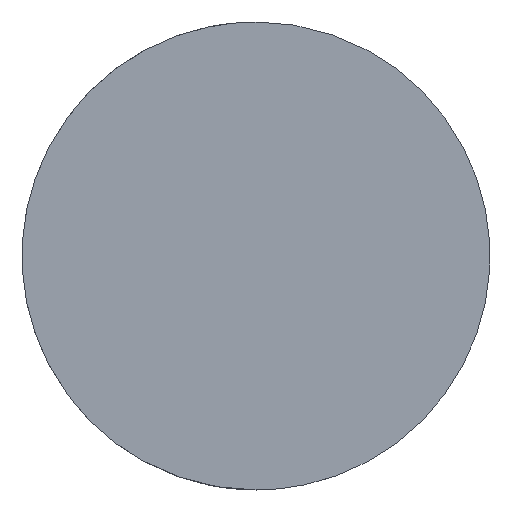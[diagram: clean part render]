
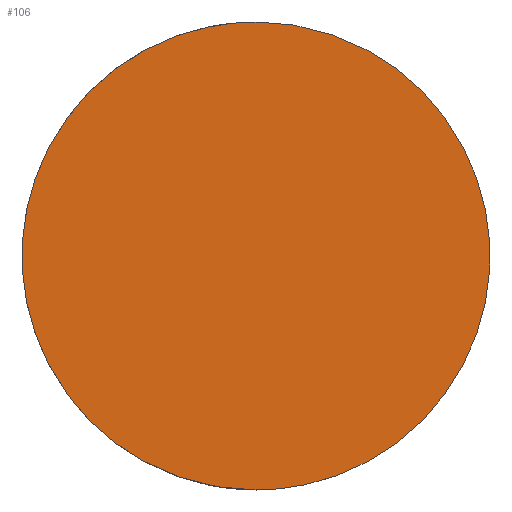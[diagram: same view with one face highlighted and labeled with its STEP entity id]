
A CAD part, top view. The second image highlights one B-rep face of the part: STEP entity #106.
In plain terms, the highlighted planar face has unit normal (0, 0, 1).
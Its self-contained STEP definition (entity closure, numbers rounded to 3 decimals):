
#29=PLANE('',#1823);
#106=ADVANCED_FACE('',(#216),#29,.T.);
#216=FACE_OUTER_BOUND('',#326,.T.);
#326=EDGE_LOOP('',(#449,#450));
#449=ORIENTED_EDGE('',*,*,#927,.F.);
#450=ORIENTED_EDGE('',*,*,#928,.F.);
#927=EDGE_CURVE('',#1482,#1483,#1352,.T.);
#928=EDGE_CURVE('',#1483,#1482,#1353,.T.);
#1352=(
BOUNDED_CURVE()
B_SPLINE_CURVE(2,(#2106,#2107,#2108,#2109,#2110),.UNSPECIFIED.,.F.,.F.)
B_SPLINE_CURVE_WITH_KNOTS((3,2,3),(0.,863.938,1727.876),
 .UNSPECIFIED.)
CURVE()
GEOMETRIC_REPRESENTATION_ITEM()
RATIONAL_B_SPLINE_CURVE((1.,0.707,1.,0.707,1.))
REPRESENTATION_ITEM('')
);
#1353=(
BOUNDED_CURVE()
B_SPLINE_CURVE(2,(#2111,#2112,#2113,#2114,#2115),.UNSPECIFIED.,.F.,.F.)
B_SPLINE_CURVE_WITH_KNOTS((3,2,3),(0.,863.938,1727.876),
 .UNSPECIFIED.)
CURVE()
GEOMETRIC_REPRESENTATION_ITEM()
RATIONAL_B_SPLINE_CURVE((1.,0.707,1.,0.707,1.))
REPRESENTATION_ITEM('')
);
#1482=VERTEX_POINT('',#2104);
#1483=VERTEX_POINT('',#2105);
#1823=AXIS2_PLACEMENT_3D('',#2103,#1916,$);
#1916=DIRECTION('',(0.,0.,1.));
#2103=CARTESIAN_POINT('',(-660.,-660.,745.997));
#2104=CARTESIAN_POINT('',(0.,550.,745.997));
#2105=CARTESIAN_POINT('',(0.,-550.,745.997));
#2106=CARTESIAN_POINT('',(0.,550.,745.997));
#2107=CARTESIAN_POINT('',(550.,550.,745.997));
#2108=CARTESIAN_POINT('',(550.,0.,745.997));
#2109=CARTESIAN_POINT('',(550.,-550.,745.997));
#2110=CARTESIAN_POINT('',(0.,-550.,745.997));
#2111=CARTESIAN_POINT('',(0.,-550.,745.997));
#2112=CARTESIAN_POINT('',(-550.,-550.,745.997));
#2113=CARTESIAN_POINT('',(-550.,0.,745.997));
#2114=CARTESIAN_POINT('',(-550.,550.,745.997));
#2115=CARTESIAN_POINT('',(0.,550.,745.997));
